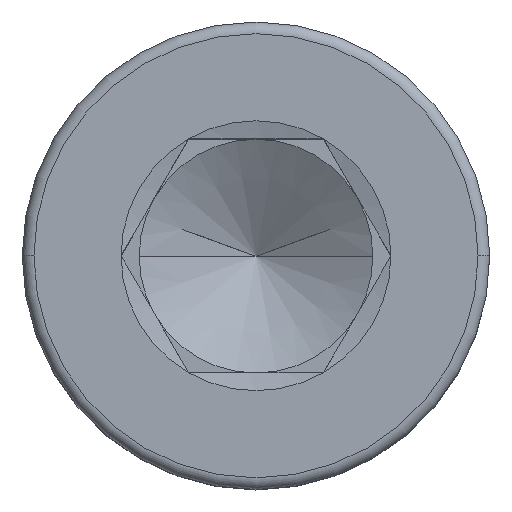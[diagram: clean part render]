
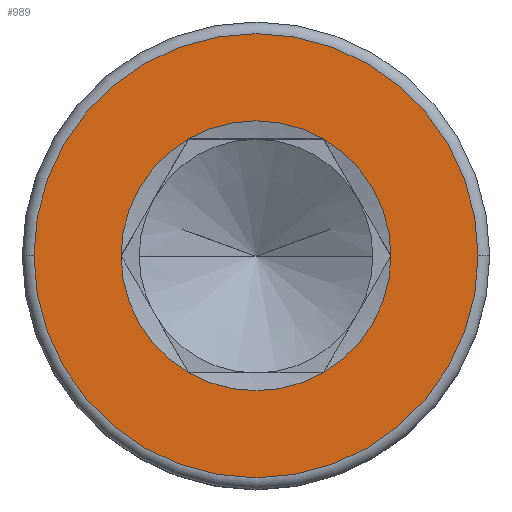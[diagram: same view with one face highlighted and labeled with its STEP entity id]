
A CAD part, top view. The second image highlights one B-rep face of the part: STEP entity #989.
In plain terms, the highlighted planar face has unit normal (0, 0, 1).
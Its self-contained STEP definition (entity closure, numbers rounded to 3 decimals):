
#98 = DIRECTION ( 'NONE',  ( 0., 0., 1. ) ) ;
#101 = ORIENTED_EDGE ( 'NONE', *, *, #1489, .F. ) ;
#113 = DIRECTION ( 'NONE',  ( 0., 0., 1. ) ) ;
#129 = CARTESIAN_POINT ( 'NONE',  ( 4.75, 0., 6. ) ) ;
#142 = VERTEX_POINT ( 'NONE', #490 ) ;
#207 = CIRCLE ( 'NONE', #471, 2.887 ) ;
#211 = VERTEX_POINT ( 'NONE', #1204 ) ;
#213 = CARTESIAN_POINT ( 'NONE',  ( 0., 0., 6. ) ) ;
#230 = AXIS2_PLACEMENT_3D ( 'NONE', #1690, #1539, #996 ) ;
#256 = CARTESIAN_POINT ( 'NONE',  ( 0., 0., 6. ) ) ;
#260 = AXIS2_PLACEMENT_3D ( 'NONE', #1668, #1292, #1146 ) ;
#265 = VERTEX_POINT ( 'NONE', #980 ) ;
#278 = CIRCLE ( 'NONE', #365, 2.887 ) ;
#287 = CIRCLE ( 'NONE', #1373, 2.887 ) ;
#294 = VERTEX_POINT ( 'NONE', #1640 ) ;
#302 = ORIENTED_EDGE ( 'NONE', *, *, #1613, .F. ) ;
#340 = PLANE ( 'NONE',  #750 ) ;
#341 = CIRCLE ( 'NONE', #1135, 4.75 ) ;
#364 = AXIS2_PLACEMENT_3D ( 'NONE', #1275, #98, #988 ) ;
#365 = AXIS2_PLACEMENT_3D ( 'NONE', #1674, #884, #1446 ) ;
#371 = CIRCLE ( 'NONE', #230, 2.887 ) ;
#376 = FACE_OUTER_BOUND ( 'NONE', #673, .T. ) ;
#414 = ORIENTED_EDGE ( 'NONE', *, *, #1333, .T. ) ;
#427 = EDGE_CURVE ( 'NONE', #294, #142, #876, .T. ) ;
#471 = AXIS2_PLACEMENT_3D ( 'NONE', #1543, #113, #620 ) ;
#490 = CARTESIAN_POINT ( 'NONE',  ( 2.887, 0., 6. ) ) ;
#493 = CARTESIAN_POINT ( 'NONE',  ( -4.75, 0., 6. ) ) ;
#509 = EDGE_CURVE ( 'NONE', #265, #835, #278, .T. ) ;
#579 = VERTEX_POINT ( 'NONE', #493 ) ;
#593 = EDGE_LOOP ( 'NONE', ( #863, #621, #699, #101, #302, #1475 ) ) ;
#594 = DIRECTION ( 'NONE',  ( 1., 0., 0. ) ) ;
#620 = DIRECTION ( 'NONE',  ( 1., 0., 0. ) ) ;
#621 = ORIENTED_EDGE ( 'NONE', *, *, #427, .F. ) ;
#659 = VERTEX_POINT ( 'NONE', #129 ) ;
#673 = EDGE_LOOP ( 'NONE', ( #414, #937 ) ) ;
#699 = ORIENTED_EDGE ( 'NONE', *, *, #1147, .F. ) ;
#703 = EDGE_CURVE ( 'NONE', #579, #659, #987, .T. ) ;
#750 = AXIS2_PLACEMENT_3D ( 'NONE', #858, #1263, #594 ) ;
#805 = CARTESIAN_POINT ( 'NONE',  ( -1.443, -2.5, 6. ) ) ;
#835 = VERTEX_POINT ( 'NONE', #1070 ) ;
#851 = CARTESIAN_POINT ( 'NONE',  ( 0., 0., 6. ) ) ;
#858 = CARTESIAN_POINT ( 'NONE',  ( 0., 0., 6. ) ) ;
#863 = ORIENTED_EDGE ( 'NONE', *, *, #1633, .F. ) ;
#876 = CIRCLE ( 'NONE', #364, 2.887 ) ;
#884 = DIRECTION ( 'NONE',  ( 0., 0., 1. ) ) ;
#933 = DIRECTION ( 'NONE',  ( 0., 0., 1. ) ) ;
#937 = ORIENTED_EDGE ( 'NONE', *, *, #703, .T. ) ;
#980 = CARTESIAN_POINT ( 'NONE',  ( 1.443, 2.5, 6. ) ) ;
#987 = CIRCLE ( 'NONE', #1417, 4.75 ) ;
#988 = DIRECTION ( 'NONE',  ( 1., 0., 0. ) ) ;
#989 = ADVANCED_FACE ( 'NONE', ( #376, #1517 ), #340, .T. ) ;
#996 = DIRECTION ( 'NONE',  ( 1., 0., 0. ) ) ;
#1023 = DIRECTION ( 'NONE',  ( 1., 0., 0. ) ) ;
#1070 = CARTESIAN_POINT ( 'NONE',  ( -1.443, 2.5, 6. ) ) ;
#1105 = DIRECTION ( 'NONE',  ( 0., 0., 1. ) ) ;
#1135 = AXIS2_PLACEMENT_3D ( 'NONE', #256, #933, #1468 ) ;
#1146 = DIRECTION ( 'NONE',  ( 1., 0., 0. ) ) ;
#1147 = EDGE_CURVE ( 'NONE', #1339, #294, #371, .T. ) ;
#1204 = CARTESIAN_POINT ( 'NONE',  ( -2.887, 0., 6. ) ) ;
#1263 = DIRECTION ( 'NONE',  ( 0., 0., 1. ) ) ;
#1275 = CARTESIAN_POINT ( 'NONE',  ( 0., 0., 6. ) ) ;
#1292 = DIRECTION ( 'NONE',  ( 0., 0., 1. ) ) ;
#1333 = EDGE_CURVE ( 'NONE', #659, #579, #341, .T. ) ;
#1339 = VERTEX_POINT ( 'NONE', #805 ) ;
#1373 = AXIS2_PLACEMENT_3D ( 'NONE', #213, #1425, #1023 ) ;
#1417 = AXIS2_PLACEMENT_3D ( 'NONE', #851, #1105, #1649 ) ;
#1425 = DIRECTION ( 'NONE',  ( 0., 0., 1. ) ) ;
#1446 = DIRECTION ( 'NONE',  ( 1., 0., 0. ) ) ;
#1468 = DIRECTION ( 'NONE',  ( 1., 0., 0. ) ) ;
#1475 = ORIENTED_EDGE ( 'NONE', *, *, #509, .F. ) ;
#1489 = EDGE_CURVE ( 'NONE', #211, #1339, #287, .T. ) ;
#1517 = FACE_BOUND ( 'NONE', #593, .T. ) ;
#1539 = DIRECTION ( 'NONE',  ( 0., 0., 1. ) ) ;
#1543 = CARTESIAN_POINT ( 'NONE',  ( 0., 0., 6. ) ) ;
#1613 = EDGE_CURVE ( 'NONE', #835, #211, #1636, .T. ) ;
#1633 = EDGE_CURVE ( 'NONE', #142, #265, #207, .T. ) ;
#1636 = CIRCLE ( 'NONE', #260, 2.887 ) ;
#1640 = CARTESIAN_POINT ( 'NONE',  ( 1.443, -2.5, 6. ) ) ;
#1649 = DIRECTION ( 'NONE',  ( 1., 0., 0. ) ) ;
#1668 = CARTESIAN_POINT ( 'NONE',  ( 0., 0., 6. ) ) ;
#1674 = CARTESIAN_POINT ( 'NONE',  ( 0., 0., 6. ) ) ;
#1690 = CARTESIAN_POINT ( 'NONE',  ( 0., 0., 6. ) ) ;
